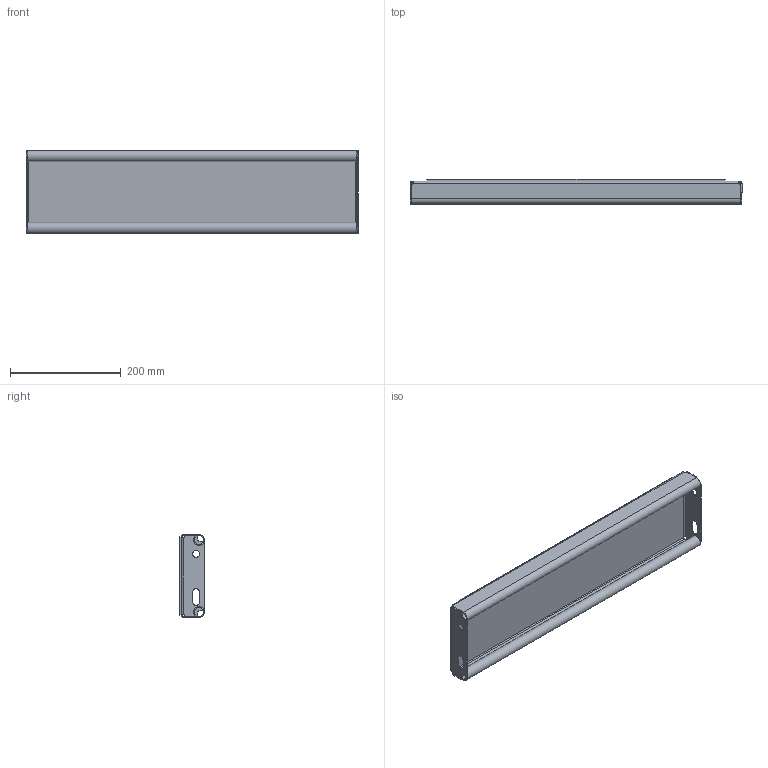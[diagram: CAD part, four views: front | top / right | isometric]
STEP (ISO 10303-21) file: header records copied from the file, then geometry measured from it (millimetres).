
FILE_DESCRIPTION (( 'STEP AP214' ), '1' );
FILE_NAME ('OPTIMO-Tread-Achil-O2-600x150x45x2-st240-F100020100-plain.STEP', '2021-03-15T09:23:54', ( '' ), ( '' ), 'SwSTEP 2.0', 'SolidWorks 2021', '' );
FILE_SCHEMA (( 'AUTOMOTIVE_DESIGN' ));
Length unit declared in the file: millimetre
Products named in the file (1): OPTIMO-Tread-Achil-O2-600x150x45x2-st240-F100020100-plain
Bounding box: 600 x 45 x 150 mm (x, y, z)
Volume: 614112.4 mm3; surface area: 392851.4 mm2
Topology: 1 solids, 1 shells, 247 faces, 637 edges, 410 vertices
Faces by surface type: plane 172, bspline 39, cylinder 36
Entity records: 9731 total; most frequent: CARTESIAN_POINT 3926, ORIENTED_EDGE 1274, DIRECTION 1017, EDGE_CURVE 637, VECTOR 487, LINE 487, VERTEX_POINT 410, EDGE_LOOP 273
